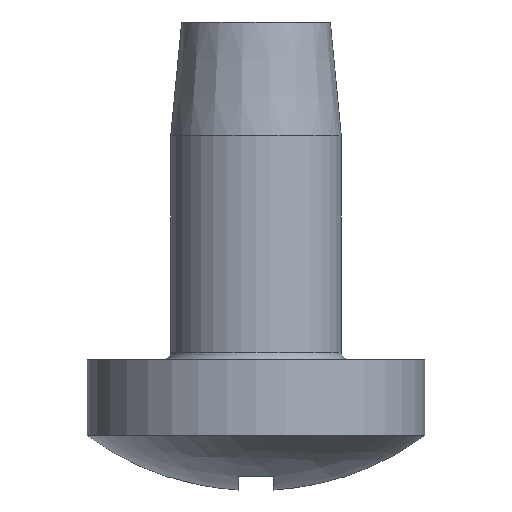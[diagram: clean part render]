
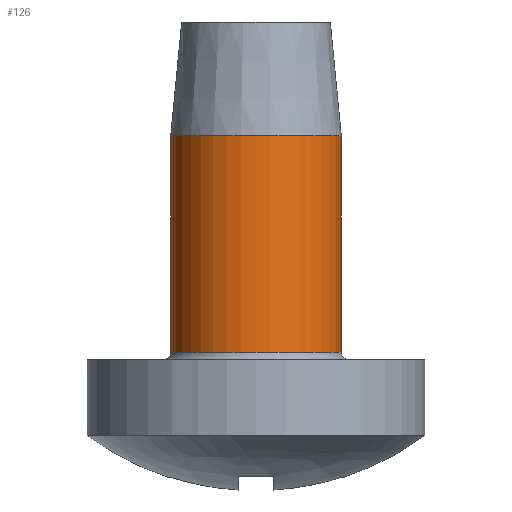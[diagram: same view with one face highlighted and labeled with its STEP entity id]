
A CAD part, front view. The second image highlights one B-rep face of the part: STEP entity #126.
In plain terms, the highlighted cylindrical face has radius 2.4 mm (diameter 4.8 mm), a partial arc.
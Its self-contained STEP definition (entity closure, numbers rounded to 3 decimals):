
#126 = ADVANCED_FACE ( 'NONE', ( #869 ), #907, .T. ) ;
#127 = EDGE_LOOP ( 'NONE', ( #128, #132, #135, #188 ) ) ;
#128 = ORIENTED_EDGE ( 'NONE', *, *, #129, .T. ) ;
#129 = EDGE_CURVE ( 'NONE', #130, #131, #908, .T. ) ;
#130 = VERTEX_POINT ( 'NONE', #900 ) ;
#131 = VERTEX_POINT ( 'NONE', #899 ) ;
#132 = ORIENTED_EDGE ( 'NONE', *, *, #133, .T. ) ;
#133 = EDGE_CURVE ( 'NONE', #131, #134, #898, .T. ) ;
#134 = VERTEX_POINT ( 'NONE', #893 ) ;
#135 = ORIENTED_EDGE ( 'NONE', *, *, #136, .T. ) ;
#136 = EDGE_CURVE ( 'NONE', #134, #137, #892, .T. ) ;
#137 = VERTEX_POINT ( 'NONE', #888 ) ;
#188 = ORIENTED_EDGE ( 'NONE', *, *, #189, .T. ) ;
#189 = EDGE_CURVE ( 'NONE', #137, #130, #1146, .T. ) ;
#869 = FACE_OUTER_BOUND ( 'NONE', #127, .T. ) ;
#888 = CARTESIAN_POINT ( 'NONE',  ( 2.4, 0., 6.3 ) ) ;
#889 = DIRECTION ( 'NONE',  ( 0., 0., 1. ) ) ;
#890 = VECTOR ( 'NONE', #889, 1000. ) ;
#891 = CARTESIAN_POINT ( 'NONE',  ( 2.4, 0., 3.15 ) ) ;
#892 = LINE ( 'NONE', #891, #890 ) ;
#893 = CARTESIAN_POINT ( 'NONE',  ( 2.4, 0., 0.2 ) ) ;
#894 = DIRECTION ( 'NONE',  ( 1., 0., 0. ) ) ;
#895 = DIRECTION ( 'NONE',  ( 0., 0., 1. ) ) ;
#896 = CARTESIAN_POINT ( 'NONE',  ( 0., 0., 0.2 ) ) ;
#897 = AXIS2_PLACEMENT_3D ( 'NONE', #896, #895, #894 ) ;
#898 = CIRCLE ( 'NONE', #897, 2.4 ) ;
#899 = CARTESIAN_POINT ( 'NONE',  ( -2.4, 0., 0.2 ) ) ;
#900 = CARTESIAN_POINT ( 'NONE',  ( -2.4, 0., 6.3 ) ) ;
#901 = DIRECTION ( 'NONE',  ( 0., 0., -1. ) ) ;
#902 = VECTOR ( 'NONE', #901, 1000. ) ;
#903 = CARTESIAN_POINT ( 'NONE',  ( -2.4, 0., 3.15 ) ) ;
#904 = DIRECTION ( 'NONE',  ( 1., 0., 0. ) ) ;
#905 = DIRECTION ( 'NONE',  ( 0., 0., 1. ) ) ;
#906 = AXIS2_PLACEMENT_3D ( 'NONE', #909, #905, #904 ) ;
#907 = CYLINDRICAL_SURFACE ( 'NONE', #906, 2.4 ) ;
#908 = LINE ( 'NONE', #903, #902 ) ;
#909 = CARTESIAN_POINT ( 'NONE',  ( 0., 0., 0.2 ) ) ;
#1142 = DIRECTION ( 'NONE',  ( 1., 0., 0. ) ) ;
#1143 = DIRECTION ( 'NONE',  ( 0., 0., -1. ) ) ;
#1144 = CARTESIAN_POINT ( 'NONE',  ( 0., 0., 6.3 ) ) ;
#1145 = AXIS2_PLACEMENT_3D ( 'NONE', #1144, #1143, #1142 ) ;
#1146 = CIRCLE ( 'NONE', #1145, 2.4 ) ;
